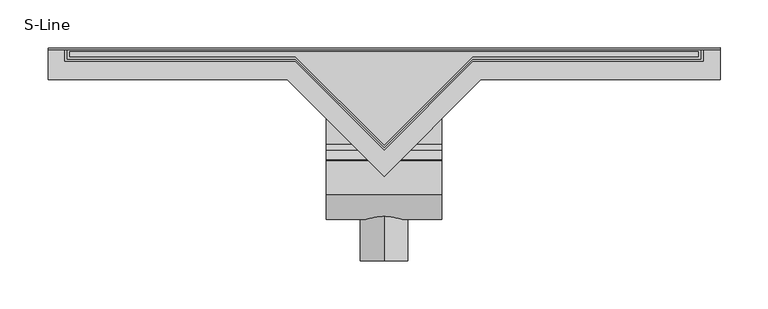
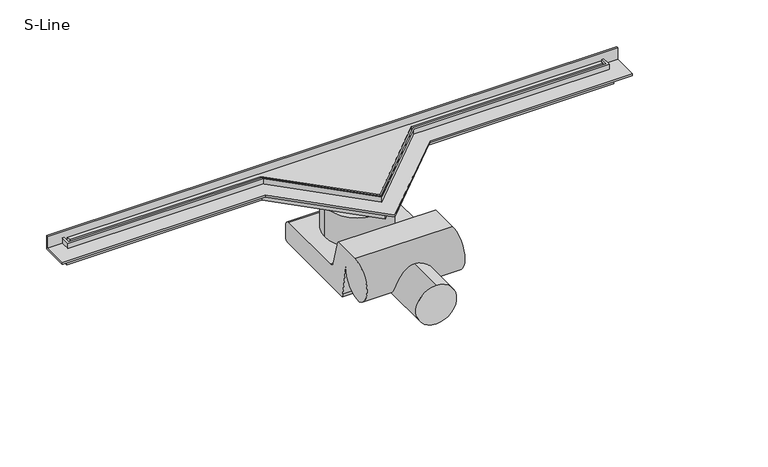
"""IFC4 building model written with IfcOpenShell, lengths in millimetres: sanitary terminal geometry, NLRS_PF_52_UN_S-Line_Easydrain : S-Line."""

from ifc_helpers import new_model, si_unit, point, frame, frame_2d, origin, place, context, project, spatial, polyline, circle_curve, trimmed, segment, composite_curve, outline, extrude, faceted_brep, source, transform, mapped, element, save


def s_line_b4ae6951(model_context):
    return source(origin(), model_context, "Body", "SolidModel", [
        extrude(outline(composite_curve([segment(trimmed(circle_curve(frame_2d((-70.0, 0.0)), 25.0), [point((-95.0, 0.0))], [point((-45.0, 0.0))], False, "CARTESIAN"), True, "CONTINUOUS"), segment(trimmed(circle_curve(frame_2d((-70.0, 0.0)), 25.0), [point((-45.0, 0.0))], [point((-95.0, 0.0))], False, "CARTESIAN"), True, "CONTINUOUS")], self_intersect=False)), frame((0.0, -189.0, 0.0), z_axis=(0.0, 1.0, 0.0), x_axis=(0.0, 0.0, 1.0)), (0.0, 0.0, 1.0), 108.0),
        extrude(outline(composite_curve([segment(trimmed(circle_curve(frame_2d((22.3675767, -92.3675767)), 4.6324233), [point((27.0, -92.3675767))], [point((22.3675767, -97.0))], False, "CARTESIAN"), True, "CONTINUOUS"), segment(polyline([(22.3675767, -97.0), (-93.4993465, -97.0)]), True, "CONTINUOUS"), segment(trimmed(circle_curve(frame_2d((-78.5994856, -91.1878307)), 15.9933476), [point((-93.4993465, -97.0))], [point((-94.552105, -92.3284894))], False, "CARTESIAN"), True, "CONTINUOUS"), segment(polyline([(-94.552105, -92.3284894), (-101.0242264, -53.5447741)]), True, "CONTINUOUS"), segment(trimmed(circle_curve(frame_2d((-129.3084976, -53.5447741)), 28.2842712), [point((-101.0242264, -53.5447741))], [point((-129.3084976, -81.8290454))], False, "CARTESIAN"), True, "CONTINUOUS"), segment(trimmed(circle_curve(frame_2d((-119.8439198, -57.2956944)), 26.2956944), [point((-129.3084976, -81.8290454))], [point((-119.8439198, -31.0))], False, "CARTESIAN"), True, "CONTINUOUS"), segment(polyline([(-119.8439198, -31.0), (-84.5778291, -31.0)]), True, "CONTINUOUS"), segment(trimmed(circle_curve(frame_2d((-89.0794932, -36.731688)), 7.2881566), [point((-84.5778291, -31.0))], [point((-83.3799699, -32.189369))], False, "CARTESIAN"), True, "CONTINUOUS"), segment(polyline([(-83.3799699, -32.189369), (-74.2149251, -65.0)]), True, "CONTINUOUS"), segment(trimmed(circle_curve(frame_2d((-67.2657703, -62.6709247)), 7.3290753), [point((-74.2149251, -65.0))], [point((-67.2657703, -70.0))], True, "CARTESIAN"), True, "CONTINUOUS"), segment(polyline([(-67.2657703, -70.0), (21.6324233, -70.0)]), True, "CONTINUOUS"), segment(trimmed(circle_curve(frame_2d((21.6324233, -75.3675767)), 5.3675767), [point((21.6324233, -70.0))], [point((27.0, -75.3675767))], False, "CARTESIAN"), True, "CONTINUOUS"), segment(polyline([(27.0, -75.3675767), (27.0, -92.3675767)]), True, "CONTINUOUS")], self_intersect=False)), frame((-60.0, 0.0, 0.0), z_axis=(1.0, 0.0, 0.0), x_axis=(0.0, 1.0, 0.0)), (0.0, 0.0, 1.0), 120.0),
        extrude(outline(composite_curve([segment(trimmed(circle_curve(frame_2d((0.0, -21.0)), 40.0), [point((-40.0, -21.0))], [point((40.0, -21.0))], False, "CARTESIAN"), True, "CONTINUOUS"), segment(trimmed(circle_curve(frame_2d((0.0, -21.0)), 40.0), [point((40.0, -21.0))], [point((-40.0, -21.0))], False, "CARTESIAN"), True, "CONTINUOUS")], self_intersect=False)), frame((0.0, 0.0, -70.0), z_axis=(0.0, 0.0, 1.0), x_axis=(1.0, 0.0, 0.0)), (0.0, 0.0, 1.0), 39.0),
        extrude(outline(composite_curve([segment(trimmed(circle_curve(frame_2d((0.0, -21.0)), 25.0), [point((-25.0, -21.0))], [point((25.0, -21.0))], False, "CARTESIAN"), True, "CONTINUOUS"), segment(trimmed(circle_curve(frame_2d((0.0, -21.0)), 25.0), [point((25.0, -21.0))], [point((-25.0, -21.0))], False, "CARTESIAN"), True, "CONTINUOUS")], self_intersect=False)), frame((0.0, 0.0, -31.0), z_axis=(0.0, 0.0, 1.0), x_axis=(1.0, 0.0, 0.0)), (0.0, 0.0, 1.0), 24.0),
        faceted_brep([(350.0, 33.0, 8.0), (-350.0, 33.0, 8.0), (-350.0, 31.0, 8.0), (350.0, 31.0, 8.0), (-350.0, 31.0, -7.0), (350.0, 31.0, -7.0), (-336.0, 15.5, -24.5), (-336.0, 29.0, -24.5), (336.0, 29.0, -24.5), (336.0, 15.5, -24.5), (96.0, 15.5, -24.5), (0.0, -80.5, -24.5), (-96.0, 15.5, -24.5), (-96.0, 15.5, -9.5), (-336.0, 15.5, -9.5), (-336.0, 29.0, -9.5), (336.0, 29.0, -9.5), (336.0, 15.5, -9.5), (96.0, 15.5, -9.5), (0.0, -80.5, -9.5), (350.0, 33.0, -9.5), (350.0, 0.0, -9.5), (101.0, 0.0, -9.5), (0.0, -101.0, -9.5), (-101.0, 0.0, -9.5), (-350.0, 0.0, -9.5), (-350.0, 33.0, -9.5), (-350.0, 0.0, -7.0), (-101.0, 0.0, -7.0), (0.0, -101.0, -7.0), (101.0, 0.0, -7.0), (350.0, 0.0, -7.0)], [[[0, 1, 2, 3]], [[3, 2, 4, 5]], [[6, 7, 8, 9, 10, 11, 12]], [[6, 12, 13, 14]], [[7, 6, 14, 15]], [[8, 7, 15, 16]], [[9, 8, 16, 17]], [[10, 9, 17, 18]], [[11, 10, 18, 19]], [[12, 11, 19, 13]], [[20, 21, 22, 23, 24, 25, 26], [14, 13, 19, 18, 17, 16, 15]], [[27, 28, 29, 30, 31, 5, 4]], [[20, 26, 1, 0]], [[26, 25, 27, 4, 2, 1]], [[25, 24, 28, 27]], [[24, 23, 29, 28]], [[23, 22, 30, 29]], [[22, 21, 31, 30]], [[21, 20, 0, 3, 5, 31]]]),
        extrude(outline(composite_curve([segment(trimmed(circle_curve(frame_2d((0.0, -21.0)), 25.0), [point((-25.0, -21.0))], [point((25.0, -21.0))], False, "CARTESIAN"), True, "CONTINUOUS"), segment(trimmed(circle_curve(frame_2d((0.0, -21.0)), 25.0), [point((25.0, -21.0))], [point((-25.0, -21.0))], False, "CARTESIAN"), True, "CONTINUOUS")], self_intersect=False)), frame((0.0, 0.0, -24.5), z_axis=(0.0, 0.0, 1.0), x_axis=(1.0, 0.0, 0.0)), (0.0, 0.0, 1.0), 17.5),
        extrude(outline(polyline([(-92.5, 24.0), (-327.5, 24.0), (-327.5, 29.0), (327.5, 29.0), (327.5, 24.0), (92.5, 24.0), (0.0, -68.5), (-92.5, 24.0)])), frame((0.0, 0.0, -7.0), z_axis=(0.0, 0.0, 1.0), x_axis=(1.0, 0.0, 0.0)), (0.0, 0.0, 1.0), 7.0),
        extrude(outline(polyline([(332.5, 33.0), (332.5, 19.0), (92.5, 19.0), (0.0, -73.5), (-92.5, 19.0), (-332.5, 19.0), (-332.5, 33.0), (332.5, 33.0)]), holes=[polyline([(-92.5, 21.5), (0.0, -71.0), (92.5, 21.5), (330.0, 21.5), (330.0, 31.0), (-330.0, 31.0), (-330.0, 21.5), (-92.5, 21.5)])]), frame((0.0, 0.0, -7.0), z_axis=(0.0, 0.0, 1.0), x_axis=(1.0, 0.0, 0.0)), (0.0, 0.0, 1.0), 7.0),
    ])


if __name__ == "__main__":
    model = new_model("IFC4")
    model_context = context("Model", 3, world=origin())
    ifc_project = project(units=[si_unit("LENGTHUNIT", "METRE", prefix="MILLI")], contexts=[model_context])
    site = spatial("IfcSite", under=ifc_project)
    building = spatial("IfcBuilding", under=site)
    placement = place(None, origin())
    s_line_shape = s_line_b4ae6951(model_context)
    element("IfcSanitaryTerminal", 1, ObjectType="NLRS_PF_52_UN_S-Line_Easydrain : S-Line", at=placement, inside=building, context=model_context, shape_type="MappedRepresentation", body=[
        mapped(s_line_shape, transform((0.0, 0.0, 0.0), x_axis=(1.0, 0.0, 0.0), y_axis=(0.0, 1.0, 0.0), z_axis=(0.0, 0.0, 1.0))),
    ])
    save(model, "model.ifc")
